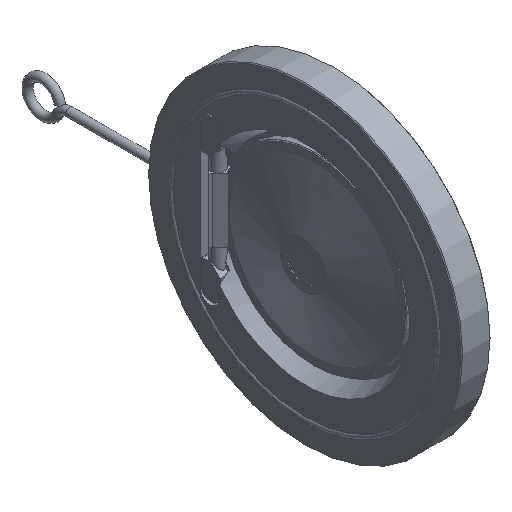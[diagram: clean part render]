
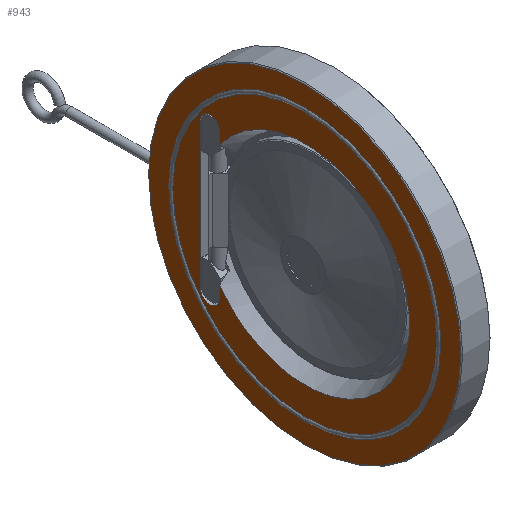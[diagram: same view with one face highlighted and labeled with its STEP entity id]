
A CAD part, isometric view. The second image highlights one B-rep face of the part: STEP entity #943.
In plain terms, the highlighted planar face has unit normal (-1, 0, 0).
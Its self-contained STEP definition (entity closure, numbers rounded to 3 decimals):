
#35=LINE('',#1539,#103);
#36=LINE('',#1543,#104);
#37=LINE('',#1547,#105);
#103=VECTOR('',#1176,1000.);
#104=VECTOR('',#1179,1000.);
#105=VECTOR('',#1182,1000.);
#250=FACE_BOUND('',#325,.T.);
#266=FACE_OUTER_BOUND('',#324,.T.);
#324=EDGE_LOOP('',(#679));
#325=EDGE_LOOP('',(#680,#681,#682,#683,#684,#685));
#380=CIRCLE('',#1032,97.);
#383=CIRCLE('',#1037,65.);
#384=CIRCLE('',#1038,6.);
#385=CIRCLE('',#1039,6.);
#432=VERTEX_POINT('',#1527);
#435=VERTEX_POINT('',#1537);
#436=VERTEX_POINT('',#1538);
#437=VERTEX_POINT('',#1540);
#438=VERTEX_POINT('',#1542);
#439=VERTEX_POINT('',#1544);
#440=VERTEX_POINT('',#1546);
#524=EDGE_CURVE('',#432,#432,#380,.T.);
#529=EDGE_CURVE('',#435,#436,#35,.T.);
#530=EDGE_CURVE('',#437,#435,#383,.F.);
#531=EDGE_CURVE('',#438,#437,#36,.T.);
#532=EDGE_CURVE('',#439,#438,#384,.F.);
#533=EDGE_CURVE('',#440,#439,#37,.T.);
#534=EDGE_CURVE('',#436,#440,#385,.F.);
#679=ORIENTED_EDGE('',*,*,#524,.F.);
#680=ORIENTED_EDGE('',*,*,#529,.F.);
#681=ORIENTED_EDGE('',*,*,#530,.F.);
#682=ORIENTED_EDGE('',*,*,#531,.F.);
#683=ORIENTED_EDGE('',*,*,#532,.F.);
#684=ORIENTED_EDGE('',*,*,#533,.F.);
#685=ORIENTED_EDGE('',*,*,#534,.F.);
#904=PLANE('',#1036);
#943=ADVANCED_FACE('',(#266,#250),#904,.F.);
#1032=AXIS2_PLACEMENT_3D('',#1528,#1164,#1165);
#1036=AXIS2_PLACEMENT_3D('',#1536,#1174,#1175);
#1037=AXIS2_PLACEMENT_3D('',#1541,#1177,#1178);
#1038=AXIS2_PLACEMENT_3D('',#1545,#1180,#1181);
#1039=AXIS2_PLACEMENT_3D('',#1548,#1183,#1184);
#1164=DIRECTION('center_axis',(1.,0.,0.));
#1165=DIRECTION('ref_axis',(0.,0.,-1.));
#1174=DIRECTION('center_axis',(1.,0.,0.));
#1175=DIRECTION('ref_axis',(0.,0.,-1.));
#1176=DIRECTION('',(0.,0.,1.));
#1177=DIRECTION('center_axis',(1.,0.,0.));
#1178=DIRECTION('ref_axis',(0.,0.,-1.));
#1179=DIRECTION('',(0.,0.,1.));
#1180=DIRECTION('center_axis',(1.,0.,0.));
#1181=DIRECTION('ref_axis',(0.,0.,-1.));
#1182=DIRECTION('',(0.,0.,-1.));
#1183=DIRECTION('center_axis',(1.,0.,0.));
#1184=DIRECTION('ref_axis',(0.,0.,-1.));
#1527=CARTESIAN_POINT('',(-9.,0.,97.));
#1528=CARTESIAN_POINT('Origin',(-9.,0.,0.));
#1536=CARTESIAN_POINT('Origin',(-9.,0.,0.));
#1537=CARTESIAN_POINT('',(-9.,53.,37.63));
#1538=CARTESIAN_POINT('',(-9.,53.,45.));
#1539=CARTESIAN_POINT('',(-9.,53.,0.));
#1540=CARTESIAN_POINT('',(-9.,53.,-37.63));
#1541=CARTESIAN_POINT('Origin',(-9.,0.,0.));
#1542=CARTESIAN_POINT('',(-9.,53.,-45.));
#1543=CARTESIAN_POINT('',(-9.,53.,0.));
#1544=CARTESIAN_POINT('',(-9.,65.,-45.));
#1545=CARTESIAN_POINT('Origin',(-9.,59.,-45.));
#1546=CARTESIAN_POINT('',(-9.,65.,45.));
#1547=CARTESIAN_POINT('',(-9.,65.,0.));
#1548=CARTESIAN_POINT('Origin',(-9.,59.,45.));
